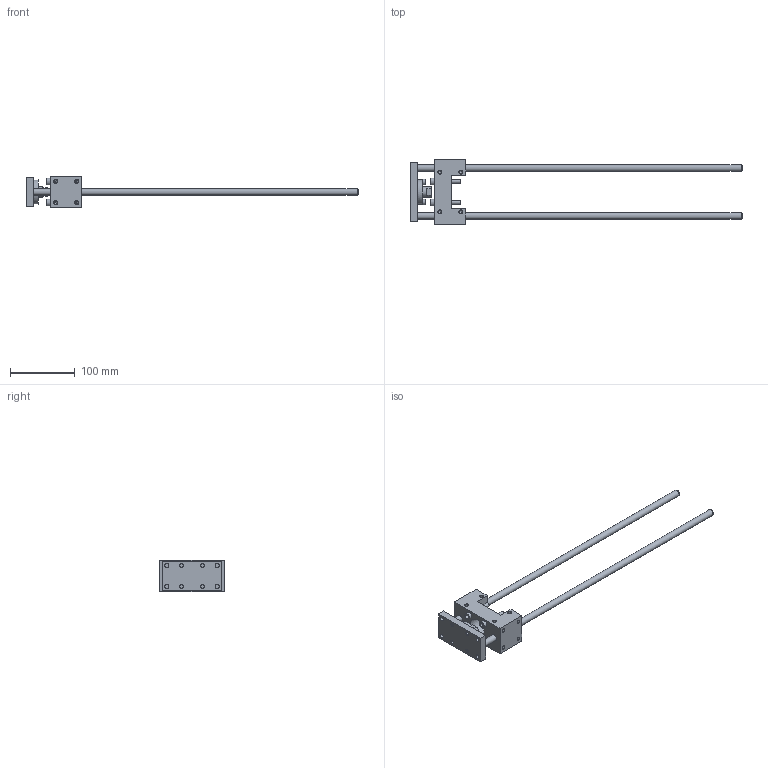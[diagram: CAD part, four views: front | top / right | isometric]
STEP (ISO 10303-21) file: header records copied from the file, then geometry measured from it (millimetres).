
FILE_DESCRIPTION( ( 'STEP AP214' ), '1' );
FILE_NAME( 'U:/Etudes/Top Solid/BIBLIO 3D AVM/TOP/PNEUMATIQUE/GUIDAGES/Type 34 (en U)/_Légère/3447130.step', '2005-05-27T12:20:45', ( ' ' ), ( ' ' ), 'XStep 1.0', ' ', ' ' );
FILE_SCHEMA( ( 'automotive_design' ) );
Length unit declared in the file: metre
Products named in the file (2): 1; 2
Bounding box: 513 x 100 x 48 mm (x, y, z)
Volume: 280544.6 mm3; surface area: 85053 mm2
Topology: 2 solids, 5 shells, 207 faces, 500 edges, 327 vertices
Faces by surface type: plane 90, cylinder 72, cone 45
Full cylindrical faces by diameter (mm): 4.134 x4, 4.918 x28, 5 x4, 5.5 x2, 6 x8, 6.5 x8, 8.5 x2, 8.647 x2, 10 x8, 16 x1, 18 x1, 22.8 x1, 25 x1, 30 x1, 38 x1
Entity records: 6811 total; most frequent: CARTESIAN_POINT 993, DIRECTION 882, ORIENTED_EDGE 628, EDGE_LOOP 376, AXIS2_PLACEMENT_3D 365, EDGE_CURVE 314, FACE_OUTER_BOUND 279, VERTEX_POINT 272
